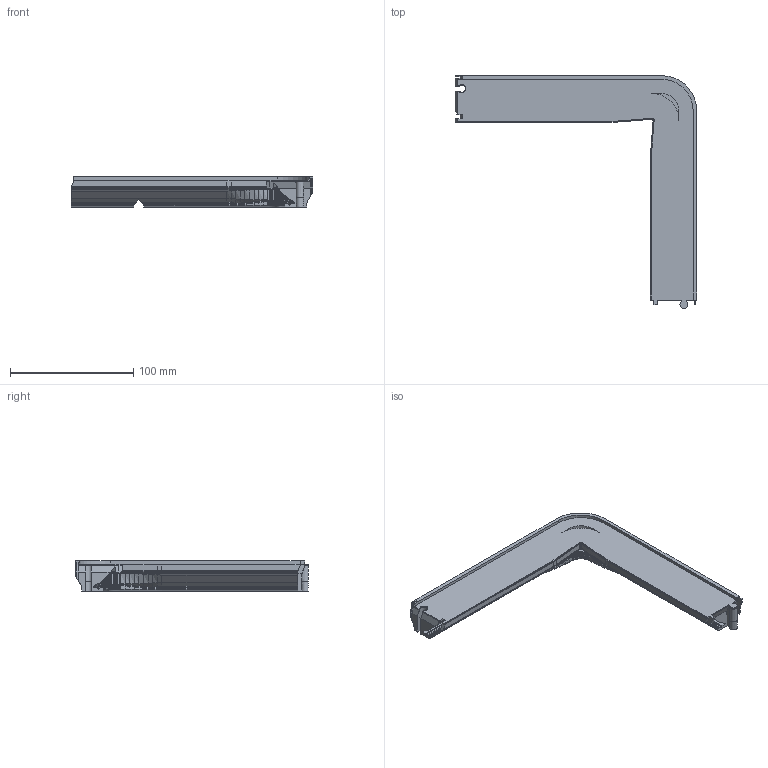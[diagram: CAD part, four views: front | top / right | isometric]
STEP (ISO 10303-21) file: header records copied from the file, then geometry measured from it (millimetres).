
FILE_DESCRIPTION(('Open CASCADE Model'),'2;1');
FILE_NAME('Open CASCADE Shape Model','2026-10-23T12:30:05',('Author'),( 'Open CASCADE'),'Open CASCADE STEP processor 8.0','build123d', 'Unknown');
FILE_SCHEMA(('AUTOMOTIVE_DESIGN { 1 0 10303 214 1 1 1 1 }'));
Products named in the file (1): SOLID
Bounding box: 196.4 x 189.18 x 24.5 mm (x, y, z)
Volume: 185906 mm3; surface area: 50453.4 mm2
Topology: 1 solids, 1 shells, 2460 faces, 5354 edges, 2897 vertices
Faces by surface type: bspline 1916, plane 531, cone 8, cylinder 5
Entity records: 128720 total; most frequent: CARTESIAN_POINT 33637, DIRECTION 12002, LINE 10871, VECTOR 10871, ORIENTED_EDGE 10708, PCURVE 10708, DEFINITIONAL_REPRESENTATION 10708, EDGE_CURVE 5354
